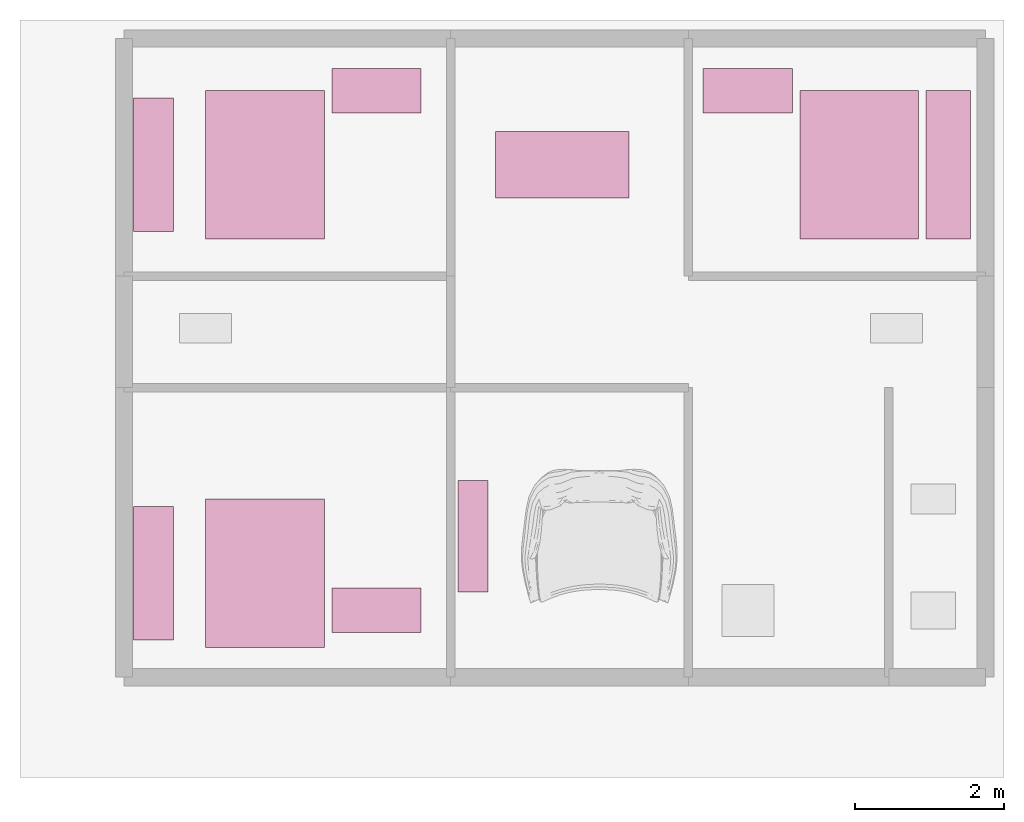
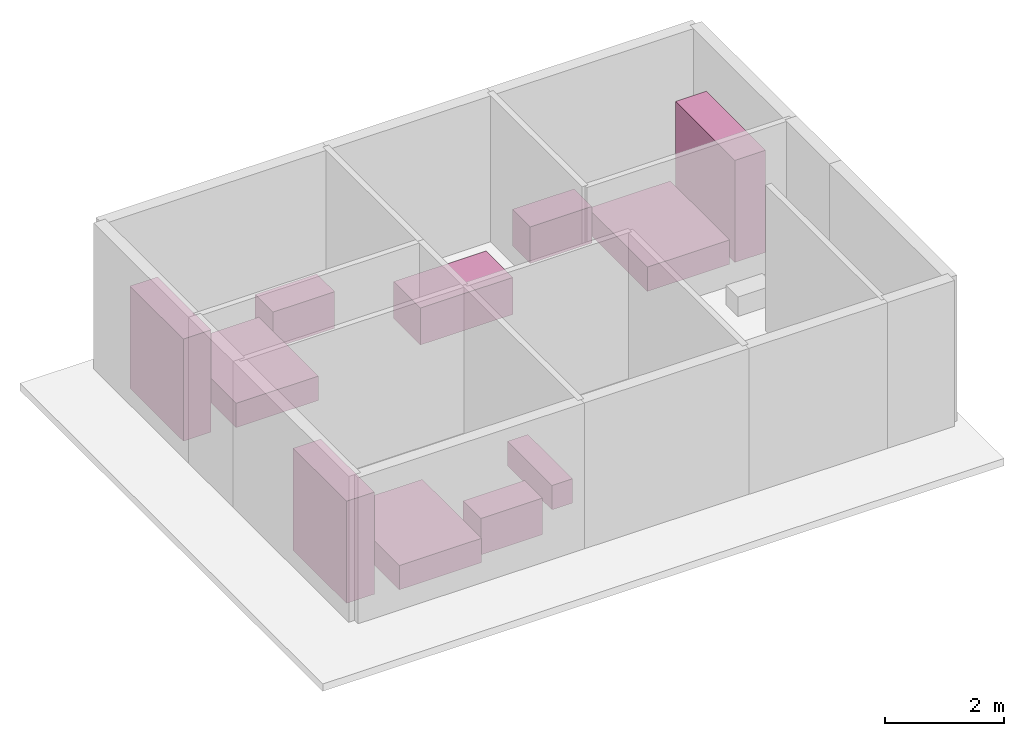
# One storey, part 3 of 3: 11 furniture elements.
"""IFC4 building model written with IfcOpenShell, lengths in metres."""

from ifc_helpers import new_model, si_unit, frame, origin, place, context, project, spatial, polyline, outline, extrude, material, element, save


model = new_model("IFC4")

# Units and contexts
model_context = context("Model", 3, precision=1e-05, world=origin())
ifc_project = project(units=[si_unit("LENGTHUNIT", "METRE")], contexts=[model_context])

# Site, building, storey
site_placement = place(None, origin())
site = spatial("IfcSite", under=ifc_project, at=site_placement, Name="Site")
building_placement = place(site_placement, origin())
building = spatial("IfcBuilding", under=site, at=building_placement, Name="Structure")
storey_placement = place(building_placement, origin())
storey = spatial("IfcBuildingStorey", under=building, at=storey_placement, Name="Ground Floor")

# Furniture
ifc_material_1 = material(Name="Wood")
furniture_1_placement = place(storey_placement, frame((2.0, 1.5, 0.0)))
element("IfcFurniture", 1, at=furniture_1_placement, inside=storey, material=ifc_material_1, Name="int_mb_bed", PredefinedType="BED", context=model_context, shape_type="SweptSolid", body=[
    extrude(outline(polyline([(-0.8, -1.0), (0.8, -1.0), (0.8, 1.0), (-0.8, 1.0), (-0.8, -1.0)])), origin(), (0.0, 0.0, 1.0), 0.5),
])
ifc_material_2 = material(Name="Wood")
furniture_2_placement = place(storey_placement, frame((2.0, 7.0, 0.0)))
element("IfcFurniture", 2, at=furniture_2_placement, inside=storey, material=ifc_material_2, Name="int_b1_bed", PredefinedType="BED", context=model_context, shape_type="SweptSolid", body=[
    extrude(outline(polyline([(-0.8, -1.0), (0.8, -1.0), (0.8, 1.0), (-0.8, 1.0), (-0.8, -1.0)])), origin(), (0.0, 0.0, 1.0), 0.5),
])
ifc_material_3 = material(Name="Wood")
furniture_3_placement = place(storey_placement, frame((10.0, 7.0, 0.0)))
element("IfcFurniture", 3, at=furniture_3_placement, inside=storey, material=ifc_material_3, Name="int_b2_bed", PredefinedType="BED", context=model_context, shape_type="SweptSolid", body=[
    extrude(outline(polyline([(-0.8, -1.0), (0.8, -1.0), (0.8, 1.0), (-0.8, 1.0), (-0.8, -1.0)])), origin(), (0.0, 0.0, 1.0), 0.5),
])
ifc_material_4 = material(Name="Wood")
furniture_4_placement = place(storey_placement, frame((6.0, 7.0, 0.0)))
element("IfcFurniture", 4, at=furniture_4_placement, inside=storey, material=ifc_material_4, Name="int_din_tab", PredefinedType="TABLE", context=model_context, shape_type="SweptSolid", body=[
    extrude(outline(polyline([(-0.9, -0.45), (0.9, -0.45), (0.9, 0.45), (-0.9, 0.45), (-0.9, -0.45)])), origin(), (0.0, 0.0, 1.0), 0.76),
])
ifc_material_5 = material(Name="MDF")
furniture_5_placement = place(storey_placement, frame((0.5, 1.5, 0.0)))
element("IfcFurniture", 5, at=furniture_5_placement, inside=storey, material=ifc_material_5, Name="int_mb_ward", PredefinedType="SHELF", context=model_context, shape_type="SweptSolid", body=[
    extrude(outline(polyline([(-0.27, -0.9), (0.27, -0.9), (0.27, 0.9), (-0.27, 0.9), (-0.27, -0.9)])), origin(), (0.0, 0.0, 1.0), 2.1),
])
ifc_material_6 = material(Name="MDF")
furniture_6_placement = place(storey_placement, frame((0.5, 7.0, 0.0)))
element("IfcFurniture", 6, at=furniture_6_placement, inside=storey, material=ifc_material_6, Name="int_b1_ward", PredefinedType="SHELF", context=model_context, shape_type="SweptSolid", body=[
    extrude(outline(polyline([(-0.27, -0.9), (0.27, -0.9), (0.27, 0.9), (-0.27, 0.9), (-0.27, -0.9)])), origin(), (0.0, 0.0, 1.0), 2.1),
])
ifc_material_7 = material(Name="MDF")
furniture_7_placement = place(storey_placement, frame((11.2, 7.0, 0.0)))
element("IfcFurniture", 7, at=furniture_7_placement, inside=storey, material=ifc_material_7, Name="int_b2_ward", PredefinedType="SHELF", context=model_context, shape_type="SweptSolid", body=[
    extrude(outline(polyline([(-0.3, -1.0), (0.3, -1.0), (0.3, 1.0), (-0.3, 1.0), (-0.3, -1.0)])), origin(), (0.0, 0.0, 1.0), 2.1),
])
ifc_material_8 = material(Name="Wood")
furniture_8_placement = place(storey_placement, frame((3.5, 1.0, 0.0)))
element("IfcFurniture", 8, at=furniture_8_placement, inside=storey, material=ifc_material_8, Name="int_mb_desk", PredefinedType="DESK", context=model_context, shape_type="SweptSolid", body=[
    extrude(outline(polyline([(-0.6, -0.3), (0.6, -0.3), (0.6, 0.3), (-0.6, 0.3), (-0.6, -0.3)])), origin(), (0.0, 0.0, 1.0), 0.75),
])
ifc_material_9 = material(Name="Wood")
furniture_9_placement = place(storey_placement, frame((3.5, 8.0, 0.0)))
element("IfcFurniture", 9, at=furniture_9_placement, inside=storey, material=ifc_material_9, Name="int_b1_desk", PredefinedType="DESK", context=model_context, shape_type="SweptSolid", body=[
    extrude(outline(polyline([(-0.6, -0.3), (0.6, -0.3), (0.6, 0.3), (-0.6, 0.3), (-0.6, -0.3)])), origin(), (0.0, 0.0, 1.0), 0.75),
])
ifc_material_10 = material(Name="Wood")
furniture_10_placement = place(storey_placement, frame((8.5, 8.0, 0.0)))
element("IfcFurniture", 10, at=furniture_10_placement, inside=storey, material=ifc_material_10, Name="int_b2_desk", PredefinedType="DESK", context=model_context, shape_type="SweptSolid", body=[
    extrude(outline(polyline([(-0.6, -0.3), (0.6, -0.3), (0.6, 0.3), (-0.6, 0.3), (-0.6, -0.3)])), origin(), (0.0, 0.0, 1.0), 0.75),
])
ifc_material_11 = material(Name="Wood")
furniture_11_placement = place(storey_placement, frame((4.8, 2.0, 0.0)))
element("IfcFurniture", 11, at=furniture_11_placement, inside=storey, material=ifc_material_11, Name="int_tv_unit", PredefinedType="SHELF", context=model_context, shape_type="SweptSolid", body=[
    extrude(outline(polyline([(-0.2, -0.75), (0.2, -0.75), (0.2, 0.75), (-0.2, 0.75), (-0.2, -0.75)])), origin(), (0.0, 0.0, 1.0), 0.5),
])

save(model, "model.ifc")
